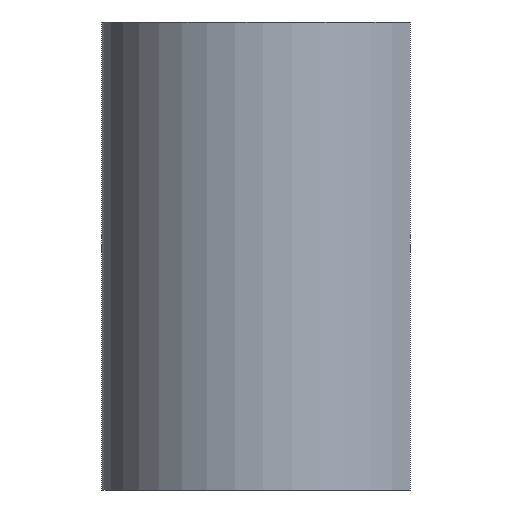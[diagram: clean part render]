
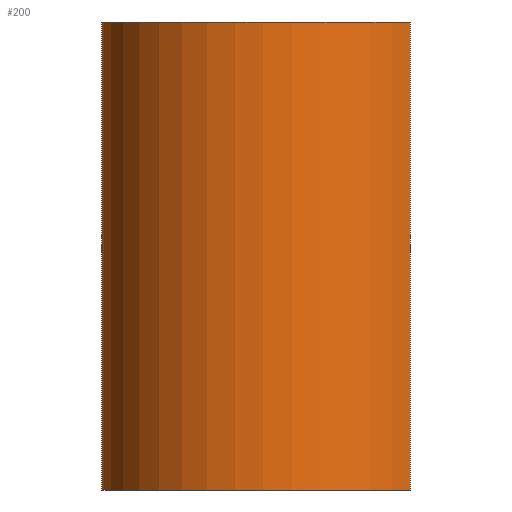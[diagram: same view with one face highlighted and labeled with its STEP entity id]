
A CAD part, left-side view. The second image highlights one B-rep face of the part: STEP entity #200.
In plain terms, the highlighted cylindrical face has radius 13 mm (diameter 26 mm), a partial arc.
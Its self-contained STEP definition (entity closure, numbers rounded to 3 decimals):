
#32=CYLINDRICAL_SURFACE('',#288,13.);
#36=CIRCLE('',#283,13.);
#38=CIRCLE('',#287,13.);
#48=FACE_OUTER_BOUND('',#60,.T.);
#60=EDGE_LOOP('',(#159,#160,#161,#162));
#70=LINE('',#378,#86);
#72=LINE('',#384,#88);
#86=VECTOR('',#311,10.);
#88=VECTOR('',#315,10.);
#100=VERTEX_POINT('',#372);
#102=VERTEX_POINT('',#376);
#103=VERTEX_POINT('',#380);
#105=VERTEX_POINT('',#383);
#118=EDGE_CURVE('',#100,#102,#70,.T.);
#120=EDGE_CURVE('',#105,#103,#72,.T.);
#124=EDGE_CURVE('',#105,#102,#36,.T.);
#126=EDGE_CURVE('',#100,#103,#38,.T.);
#159=ORIENTED_EDGE('',*,*,#118,.T.);
#160=ORIENTED_EDGE('',*,*,#124,.F.);
#161=ORIENTED_EDGE('',*,*,#120,.T.);
#162=ORIENTED_EDGE('',*,*,#126,.F.);
#200=ADVANCED_FACE('',(#48),#32,.T.);
#283=AXIS2_PLACEMENT_3D('',#390,#322,#323);
#287=AXIS2_PLACEMENT_3D('',#394,#330,#331);
#288=AXIS2_PLACEMENT_3D('',#395,#332,#333);
#311=DIRECTION('',(0.,0.,1.));
#315=DIRECTION('',(0.,0.,-1.));
#322=DIRECTION('center_axis',(0.,0.,1.));
#323=DIRECTION('ref_axis',(1.,0.,0.));
#330=DIRECTION('center_axis',(0.,0.,-1.));
#331=DIRECTION('ref_axis',(1.,0.,0.));
#332=DIRECTION('center_axis',(0.,0.,1.));
#333=DIRECTION('ref_axis',(0.,1.,0.));
#372=CARTESIAN_POINT('',(-7.296,-10.76,-18.));
#376=CARTESIAN_POINT('',(-7.296,-10.76,18.));
#378=CARTESIAN_POINT('',(-7.296,-10.76,0.));
#380=CARTESIAN_POINT('',(7.296,-10.76,-18.));
#383=CARTESIAN_POINT('',(7.296,-10.76,18.));
#384=CARTESIAN_POINT('',(7.296,-10.76,0.));
#390=CARTESIAN_POINT('Origin',(0.,0.,18.));
#394=CARTESIAN_POINT('Origin',(0.,0.,-18.));
#395=CARTESIAN_POINT('Origin',(0.,0.,0.));
